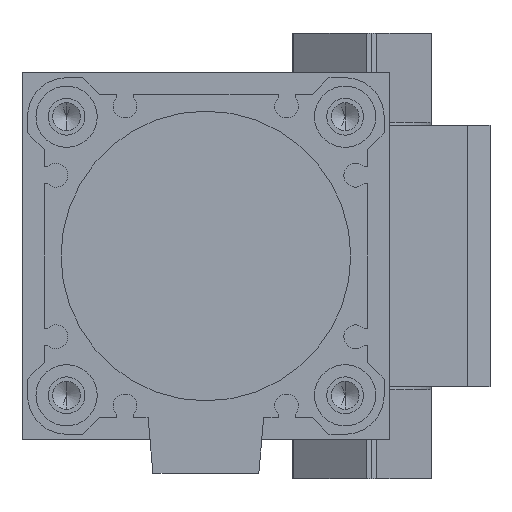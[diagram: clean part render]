
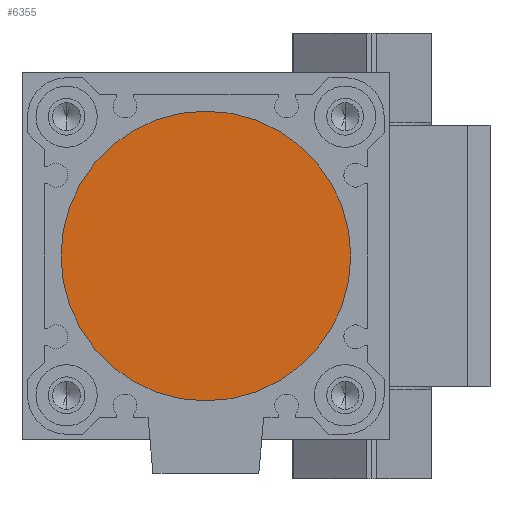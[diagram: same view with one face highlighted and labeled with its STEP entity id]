
A CAD part, front view. The second image highlights one B-rep face of the part: STEP entity #6355.
In plain terms, the highlighted planar face has unit normal (0, -1, 0) as drawn and (1, 0, 0) by its records, which use the part's own axes.
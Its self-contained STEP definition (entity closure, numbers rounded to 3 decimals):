
#33 = AXIS2_PLACEMENT_3D ( 'NONE', #2655, #2664, #2665 ) ;
#328 = FACE_OUTER_BOUND ( 'NONE', #2223, .T. ) ;
#456 = CIRCLE ( 'NONE', #4479, 26. ) ;
#1198 = ORIENTED_EDGE ( 'NONE', *, *, #6000, .T. ) ;
#1199 = ORIENTED_EDGE ( 'NONE', *, *, #6062, .T. ) ;
#1919 = CIRCLE ( 'NONE', #4437, 26. ) ;
#2223 = EDGE_LOOP ( 'NONE', ( #1199, #1198 ) ) ;
#2333 = CARTESIAN_POINT ( 'NONE',  ( 113.5, 0., 26. ) ) ;
#2334 = CARTESIAN_POINT ( 'NONE',  ( 113.5, 0., -26. ) ) ;
#2352 = CARTESIAN_POINT ( 'NONE',  ( 113.5, 0., 0. ) ) ;
#2353 = DIRECTION ( 'NONE',  ( 1., 0., 0. ) ) ;
#2354 = DIRECTION ( 'NONE',  ( 0., 0., -1. ) ) ;
#2655 = CARTESIAN_POINT ( 'NONE',  ( 113.5, 0., 0. ) ) ;
#2662 = PLANE ( 'NONE',  #33 ) ;
#2664 = DIRECTION ( 'NONE',  ( 1., 0., 0. ) ) ;
#2665 = DIRECTION ( 'NONE',  ( 0., 0., -1. ) ) ;
#4437 = AXIS2_PLACEMENT_3D ( 'NONE', #2352, #2353, #2354 ) ;
#4479 = AXIS2_PLACEMENT_3D ( 'NONE', #6597, #6598, #6600 ) ;
#5942 = VERTEX_POINT ( 'NONE', #2333 ) ;
#5943 = VERTEX_POINT ( 'NONE', #2334 ) ;
#6000 = EDGE_CURVE ( 'NONE', #5942, #5943, #1919, .T. ) ;
#6062 = EDGE_CURVE ( 'NONE', #5943, #5942, #456, .T. ) ;
#6355 = ADVANCED_FACE ( 'NONE', ( #328 ), #2662, .T. ) ;
#6597 = CARTESIAN_POINT ( 'NONE',  ( 113.5, 0., 0. ) ) ;
#6598 = DIRECTION ( 'NONE',  ( 1., 0., 0. ) ) ;
#6600 = DIRECTION ( 'NONE',  ( 0., 0., -1. ) ) ;
